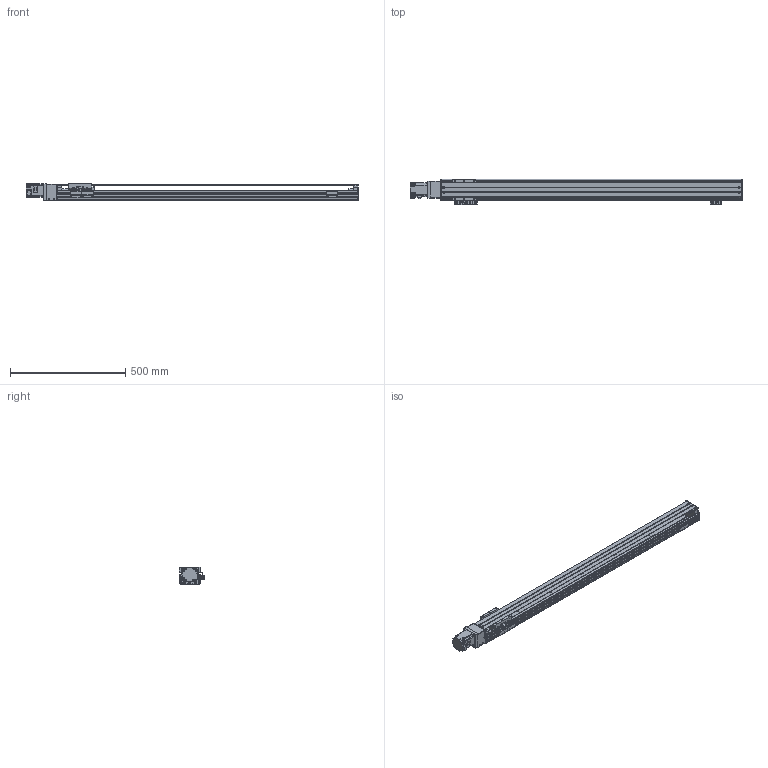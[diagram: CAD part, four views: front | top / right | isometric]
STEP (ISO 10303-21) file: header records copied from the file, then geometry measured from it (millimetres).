
FILE_DESCRIPTION(/* description */ (''),/* implementation_level */ '2;1');
FILE_NAME(/* name */ '\\192.168.0.160\disk1\HAN SHIN Master\B-설계부문\C-표준\B-2024년\BC02-표준도면\+로봇 개선표준도면\홈페이지 표준 도면\홈페이지 최종 작업 폴더\3D\HR\HR90\HG90직렬\HR90-S20-N1B-1100-R10.stp',/* time_stamp */ '2025-01-20T11:26:37+09:00',/* author */ ('user'),/* organization */ (''),/* preprocessor_version */ 'ST-DEVELOPER v18.1',/* originating_system */ 'Autodesk Inventor 2022',/* authorisation */ '');
FILE_SCHEMA (('CONFIG_CONTROL_DESIGN'));
Length unit declared in the file: millimetre
Products named in the file (18): HG90-S20-N1B-0500-R10 - 간소화; HR90 BASE 100W 1BLOCK; HR90 FRONT BLOCK; HR90 REAR BLOCK TENSION; HR90 REAR COVER-TENSION; HG4UPCOV002; HR90 FRRONT COVER-COUPLING; HR120 SENSOR DOG; HG90 S MOTOR PLATE-B; HG90 S MOTOR PLATE-M; hg-kr23_; COUPLING COVER; HG90STOPPER - 27L; HG90STOPPER - 20L; HR90 TABLE; LMKE1520 NUT; SENSOR BRK(EE-SX674A); EE_SX674A
Assembly tree (21 placements, depth 2):
  HG90-S20-N1B-0500-R10 - 간소화
    HR90 BASE 100W 1BLOCK
    HR90 FRONT BLOCK
    HR90 REAR BLOCK TENSION
    HR90 REAR COVER-TENSION
    HG4UPCOV002
    EE_SX674A  x3
    SENSOR BRK(EE-SX674A)  x3
    HR90 FRRONT COVER-COUPLING
    HR120 SENSOR DOG
    HG90 S MOTOR PLATE-B
    HG90 S MOTOR PLATE-M
    hg-kr23_
    COUPLING COVER
    HG90STOPPER - 27L
    HG90STOPPER - 20L
    HR90 TABLE
    LMKE1520 NUT
Bounding box: 1438.6 x 109 x 75 mm (x, y, z)
Volume: 2417755.2 mm3; surface area: 963420.5 mm2
Topology: 21 solids, 21 shells, 1196 faces, 3173 edges, 2081 vertices
Faces by surface type: plane 603, cylinder 506, cone 87
Full cylindrical faces by diameter (mm): 2 x4, 2.459 x14, 3 x4, 3.242 x20, 3.5 x6, 4 x4, 4.134 x47, 4.5 x16, 4.917 x5, 5 x32, 5.5 x35, 5.6 x8, 5.8 x4, 5.9 x8, 6 x4, 9.5 x31, 14 x1, 15 x3, 17 x1, 22 x1, 25 x1, 28 x1, 32 x2, 33.7 x1, 34 x1, 40 x1, 46 x1, 50 x2
Entity records: 34020 total; most frequent: CARTESIAN_POINT 6403, DIRECTION 5746, ORIENTED_EDGE 5412, EDGE_CURVE 2706, AXIS2_PLACEMENT_3D 2047, VERTEX_POINT 1809, LINE 1652, VECTOR 1652
